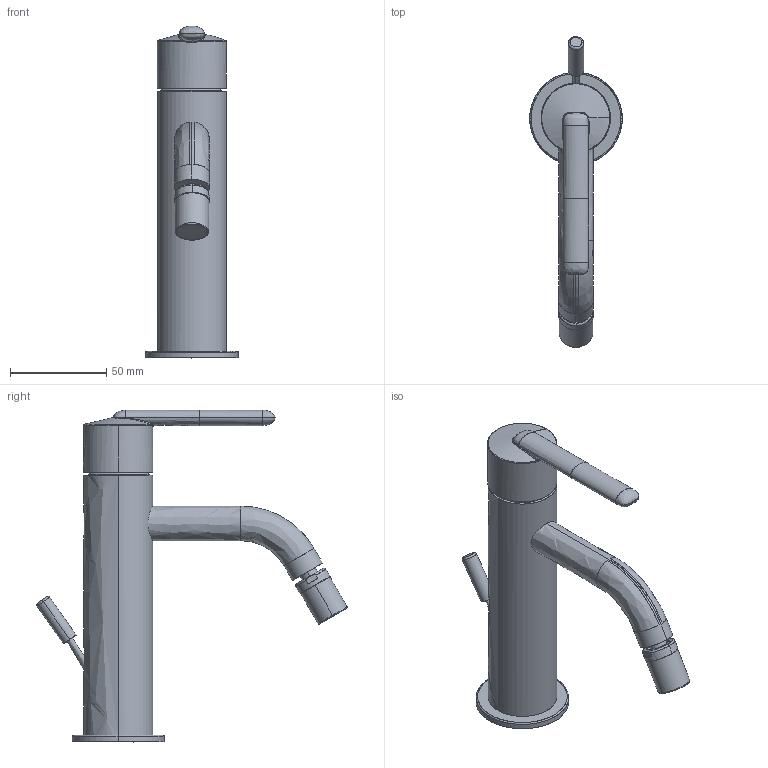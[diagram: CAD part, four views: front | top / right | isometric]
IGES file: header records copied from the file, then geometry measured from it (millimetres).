
Global section: file name: /Users/matthias.isele/Desktop/Planungsdaten/Balcoon/BA24000010XX/3D/BA24000010+.igs; native system: Rhinoceros ( Apr 16 2024 ); preprocessor: Trout Lake IGES 012 Apr 16 2024; date: 250117.095327; units: millimetre
Bounding box: 48 x 161.21 x 172.33 mm (x, y, z)
Surface area: 37992.5 mm2 (no closed solid volume)
Topology: 0 solids, 0 shells, 131 faces, 1922 edges, 1913 vertices
Faces by surface type: bspline 131
